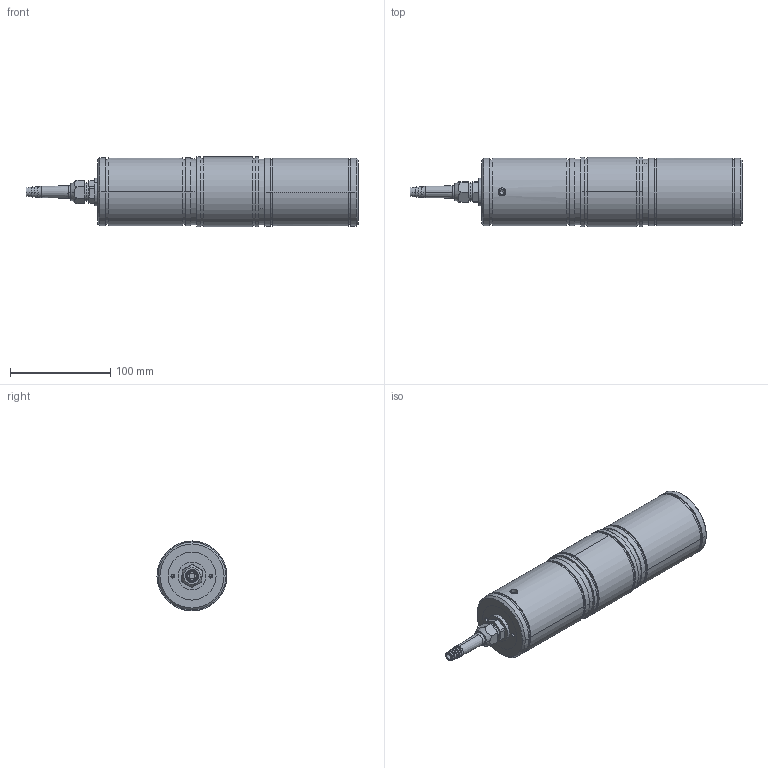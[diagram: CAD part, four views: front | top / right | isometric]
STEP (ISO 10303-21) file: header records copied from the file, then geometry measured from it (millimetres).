
FILE_DESCRIPTION (( 'STEP AP214' ), '1' );
FILE_NAME ('KISD-6R 50 kN Load Cell.STEP', '2021-06-30T12:06:56', ( '' ), ( '' ), 'SwSTEP 2.0', 'SolidWorks 2021', '' );
FILE_SCHEMA (( 'AUTOMOTIVE_DESIGN' ));
Length unit declared in the file: millimetre
Products named in the file (7): 5211311r1; KISD-6R 50 kN Load Cell; 4102482r2; Wiberger-frp_A2_8x16; M26x1.5 - Pg9 - 6369829; Pg9 - 1009.52 6_2_14; Silicone^1164645 - KISD-6R 50kN Rostfri
Assembly tree (9 placements, depth 2):
  KISD-6R 50 kN Load Cell
    4102482r2
    5211311r1  x2
    M26x1.5 - Pg9 - 6369829
    Pg9 - 1009.52 6_2_14
    Silicone^1164645 - KISD-6R 50kN Rostfri  x2
    Wiberger-frp_A2_8x16  x2
Bounding box: 332 x 70 x 70 mm (x, y, z)
Volume: 888107.1 mm3; surface area: 148641.7 mm2
Topology: 9 solids, 12 shells, 330 faces, 744 edges, 458 vertices
Faces by surface type: cylinder 145, cone 79, plane 72, torus 18, bspline 16
Entity records: 12782 total; most frequent: CARTESIAN_POINT 6019, DIRECTION 1310, ORIENTED_EDGE 1222, EDGE_CURVE 611, AXIS2_PLACEMENT_3D 557, VERTEX_POINT 383, EDGE_LOOP 316, CIRCLE 288
